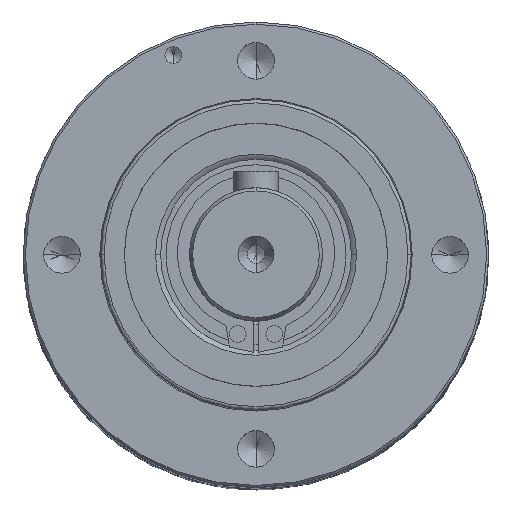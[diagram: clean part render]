
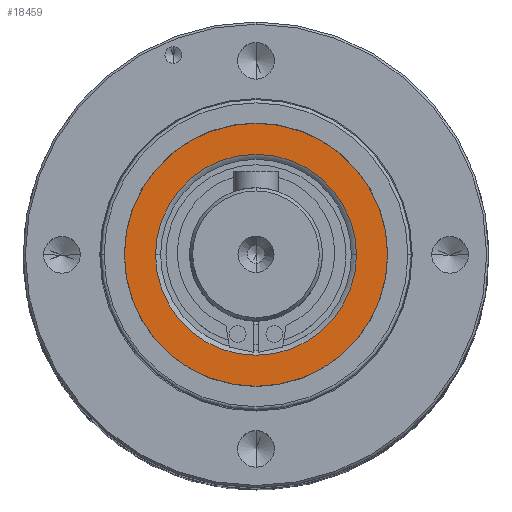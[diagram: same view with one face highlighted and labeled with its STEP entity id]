
A CAD part, top view. The second image highlights one B-rep face of the part: STEP entity #18459.
In plain terms, the highlighted planar face has unit normal (0, 0, 1).
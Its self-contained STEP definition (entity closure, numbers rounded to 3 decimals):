
#834 = FACE_BOUND ( 'NONE', #28505, .T. ) ;
#1492 = CARTESIAN_POINT ( 'NONE',  ( 5.131, -8.599, 138.685 ) ) ;
#2401 = EDGE_CURVE ( 'NONE', #43749, #7213, #26741, .T. ) ;
#4293 = CARTESIAN_POINT ( 'NONE',  ( 5.131, -8.599, 138.685 ) ) ;
#7213 = VERTEX_POINT ( 'NONE', #43421 ) ;
#7440 = DIRECTION ( 'NONE',  ( 1., 0., 0. ) ) ;
#7499 = CARTESIAN_POINT ( 'NONE',  ( 14.191, -8.599, 138.685 ) ) ;
#8162 = CARTESIAN_POINT ( 'NONE',  ( 16.996, -8.599, 138.685 ) ) ;
#12038 = FACE_OUTER_BOUND ( 'NONE', #21894, .T. ) ;
#12318 = ORIENTED_EDGE ( 'NONE', *, *, #31674, .F. ) ;
#12823 = PLANE ( 'NONE',  #78435 ) ;
#13473 = DIRECTION ( 'NONE',  ( 1., 0., 0. ) ) ;
#18459 = ADVANCED_FACE ( 'NONE', ( #834, #12038 ), #12823, .T. ) ;
#18969 = VERTEX_POINT ( 'NONE', #60167 ) ;
#20352 = DIRECTION ( 'NONE',  ( 0., 0., 1. ) ) ;
#21894 = EDGE_LOOP ( 'NONE', ( #56023, #47722 ) ) ;
#21996 = DIRECTION ( 'NONE',  ( 0., 0., -1. ) ) ;
#22533 = AXIS2_PLACEMENT_3D ( 'NONE', #76748, #21996, #40344 ) ;
#25762 = DIRECTION ( 'NONE',  ( 0., 0., 1. ) ) ;
#26741 = CIRCLE ( 'NONE', #68815, 9.06 ) ;
#28505 = EDGE_LOOP ( 'NONE', ( #12318, #63508 ) ) ;
#28598 = DIRECTION ( 'NONE',  ( 0., 0., 1. ) ) ;
#30663 = CARTESIAN_POINT ( 'NONE',  ( 5.131, -8.599, 138.685 ) ) ;
#31674 = EDGE_CURVE ( 'NONE', #43749, #7213, #46471, .T. ) ;
#35279 = CIRCLE ( 'NONE', #22533, 11.865 ) ;
#36591 = AXIS2_PLACEMENT_3D ( 'NONE', #4293, #28598, #7440 ) ;
#38258 = CARTESIAN_POINT ( 'NONE',  ( 5.131, -8.599, 138.685 ) ) ;
#40344 = DIRECTION ( 'NONE',  ( 1., 0., 0. ) ) ;
#40492 = EDGE_CURVE ( 'NONE', #52934, #18969, #71081, .T. ) ;
#43421 = CARTESIAN_POINT ( 'NONE',  ( -3.929, -8.599, 138.685 ) ) ;
#43749 = VERTEX_POINT ( 'NONE', #7499 ) ;
#46471 = CIRCLE ( 'NONE', #77316, 9.06 ) ;
#47722 = ORIENTED_EDGE ( 'NONE', *, *, #40492, .T. ) ;
#50691 = EDGE_CURVE ( 'NONE', #52934, #18969, #35279, .T. ) ;
#52934 = VERTEX_POINT ( 'NONE', #8162 ) ;
#54937 = DIRECTION ( 'NONE',  ( 0., 0., -1. ) ) ;
#56023 = ORIENTED_EDGE ( 'NONE', *, *, #50691, .F. ) ;
#60167 = CARTESIAN_POINT ( 'NONE',  ( -6.734, -8.599, 138.685 ) ) ;
#62990 = DIRECTION ( 'NONE',  ( 1., 0., 0. ) ) ;
#63508 = ORIENTED_EDGE ( 'NONE', *, *, #2401, .T. ) ;
#68815 = AXIS2_PLACEMENT_3D ( 'NONE', #30663, #54937, #73447 ) ;
#71081 = CIRCLE ( 'NONE', #36591, 11.865 ) ;
#73447 = DIRECTION ( 'NONE',  ( 1., 0., 0. ) ) ;
#76748 = CARTESIAN_POINT ( 'NONE',  ( 5.131, -8.599, 138.685 ) ) ;
#77316 = AXIS2_PLACEMENT_3D ( 'NONE', #1492, #25762, #13473 ) ;
#78435 = AXIS2_PLACEMENT_3D ( 'NONE', #38258, #20352, #62990 ) ;
